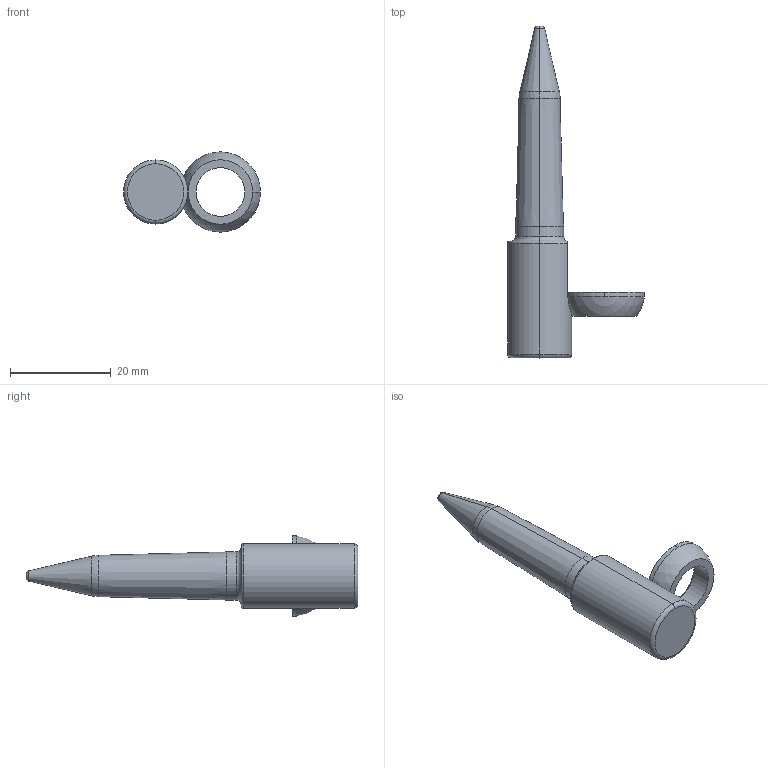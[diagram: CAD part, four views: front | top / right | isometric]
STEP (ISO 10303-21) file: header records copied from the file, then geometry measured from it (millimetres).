
FILE_DESCRIPTION (( 'STEP AP214' ), '1' );
FILE_NAME ('PA-T-.375-.075-1.0-3-A-F1.STEP', '2019-05-08T17:33:19', ( '' ), ( '' ), 'SwSTEP 2.0', 'SolidWorks 2017', '' );
FILE_SCHEMA (( 'AUTOMOTIVE_DESIGN' ));
Length unit declared in the file: inch
Products named in the file (3): SLRadiusWasher_RadiusWasher-E; SLPilot-PA-T-E_PA-T-.375-.075-1.0-3-A-F1; PA-T-.375-.075-1.0-3-A-F1
Assembly tree (2 placements, depth 2):
  PA-T-.375-.075-1.0-3-A-F1
    SLPilot-PA-T-E_PA-T-.375-.075-1.0-3-A-F1
    SLRadiusWasher_RadiusWasher-E
Bounding box: 27.11 x 65.74 x 15.88 mm (x, y, z)
Volume: 5436.9 mm3; surface area: 2648.9 mm2
Topology: 2 solids, 2 shells, 35 faces, 77 edges, 46 vertices
Faces by surface type: torus 11, cylinder 9, cone 6, plane 5, sphere 4
Entity records: 1162 total; most frequent: CARTESIAN_POINT 228, DIRECTION 208, ORIENTED_EDGE 154, AXIS2_PLACEMENT_3D 96, EDGE_CURVE 77, CIRCLE 56, VERTEX_POINT 46, EDGE_LOOP 37
